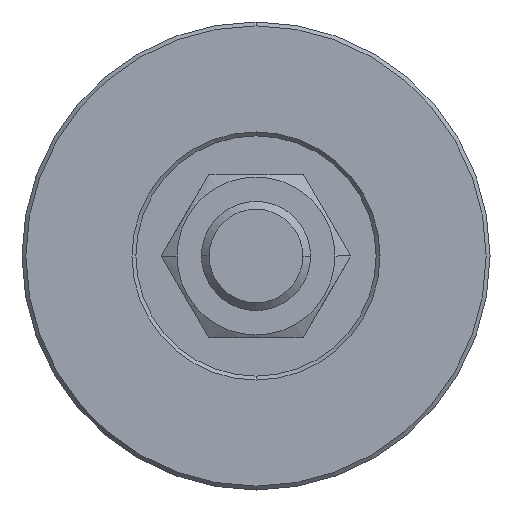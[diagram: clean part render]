
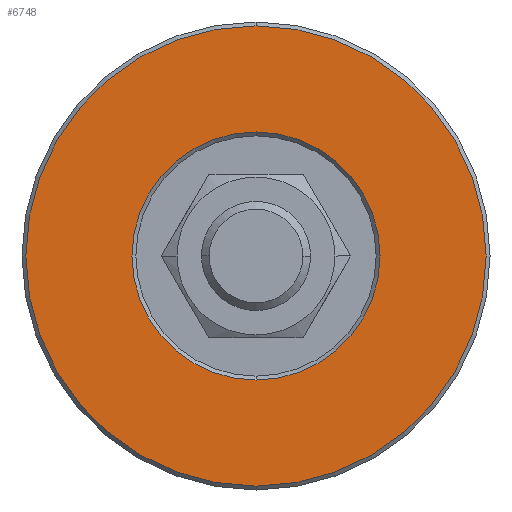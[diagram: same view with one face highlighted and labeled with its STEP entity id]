
A CAD part, front view. The second image highlights one B-rep face of the part: STEP entity #6748.
In plain terms, the highlighted planar face has unit normal (0, -1, 0).
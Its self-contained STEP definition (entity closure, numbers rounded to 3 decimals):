
#227 = DIRECTION ( 'NONE',  ( 0., 0., -1. ) ) ;
#250 = DIRECTION ( 'NONE',  ( 0., -1., 0. ) ) ;
#503 = AXIS2_PLACEMENT_3D ( 'NONE', #2433, #4300, #6660 ) ;
#573 = CARTESIAN_POINT ( 'NONE',  ( 0., 0., -29.5 ) ) ;
#857 = DIRECTION ( 'NONE',  ( 0., 0., -1. ) ) ;
#880 = AXIS2_PLACEMENT_3D ( 'NONE', #4258, #5377, #5967 ) ;
#953 = FACE_OUTER_BOUND ( 'NONE', #1685, .T. ) ;
#956 = EDGE_LOOP ( 'NONE', ( #7467, #3234 ) ) ;
#1086 = AXIS2_PLACEMENT_3D ( 'NONE', #3069, #2438, #7232 ) ;
#1123 = AXIS2_PLACEMENT_3D ( 'NONE', #1483, #250, #857 ) ;
#1427 = CIRCLE ( 'NONE', #5805, 15.9 ) ;
#1483 = CARTESIAN_POINT ( 'NONE',  ( 0., 0., 0. ) ) ;
#1506 = CIRCLE ( 'NONE', #503, 15.9 ) ;
#1685 = EDGE_LOOP ( 'NONE', ( #5636, #3111 ) ) ;
#1987 = FACE_BOUND ( 'NONE', #956, .T. ) ;
#2433 = CARTESIAN_POINT ( 'NONE',  ( 0., 0., 0. ) ) ;
#2438 = DIRECTION ( 'NONE',  ( 0., -1., 0. ) ) ;
#3069 = CARTESIAN_POINT ( 'NONE',  ( 15.4, 0., 0. ) ) ;
#3111 = ORIENTED_EDGE ( 'NONE', *, *, #5622, .T. ) ;
#3234 = ORIENTED_EDGE ( 'NONE', *, *, #7187, .T. ) ;
#3236 = DIRECTION ( 'NONE',  ( 0., 1., 0. ) ) ;
#3348 = VERTEX_POINT ( 'NONE', #6325 ) ;
#3361 = CIRCLE ( 'NONE', #1123, 29.5 ) ;
#3797 = CARTESIAN_POINT ( 'NONE',  ( 0., 0., 0. ) ) ;
#4221 = CARTESIAN_POINT ( 'NONE',  ( 0., 0., -15.9 ) ) ;
#4258 = CARTESIAN_POINT ( 'NONE',  ( 0., 0., 0. ) ) ;
#4300 = DIRECTION ( 'NONE',  ( 0., 1., 0. ) ) ;
#4411 = VERTEX_POINT ( 'NONE', #6368 ) ;
#4688 = EDGE_CURVE ( 'NONE', #4411, #6625, #6342, .T. ) ;
#5377 = DIRECTION ( 'NONE',  ( 0., -1., 0. ) ) ;
#5622 = EDGE_CURVE ( 'NONE', #6625, #4411, #3361, .T. ) ;
#5636 = ORIENTED_EDGE ( 'NONE', *, *, #4688, .T. ) ;
#5805 = AXIS2_PLACEMENT_3D ( 'NONE', #3797, #3236, #227 ) ;
#5967 = DIRECTION ( 'NONE',  ( 0., 0., -1. ) ) ;
#6104 = PLANE ( 'NONE',  #1086 ) ;
#6325 = CARTESIAN_POINT ( 'NONE',  ( 0., 0., 15.9 ) ) ;
#6330 = EDGE_CURVE ( 'NONE', #7331, #3348, #1427, .T. ) ;
#6342 = CIRCLE ( 'NONE', #880, 29.5 ) ;
#6368 = CARTESIAN_POINT ( 'NONE',  ( 0., 0., 29.5 ) ) ;
#6625 = VERTEX_POINT ( 'NONE', #573 ) ;
#6660 = DIRECTION ( 'NONE',  ( 0., 0., -1. ) ) ;
#6748 = ADVANCED_FACE ( 'NONE', ( #953, #1987 ), #6104, .T. ) ;
#7187 = EDGE_CURVE ( 'NONE', #3348, #7331, #1506, .T. ) ;
#7232 = DIRECTION ( 'NONE',  ( 0., 0., -1. ) ) ;
#7331 = VERTEX_POINT ( 'NONE', #4221 ) ;
#7467 = ORIENTED_EDGE ( 'NONE', *, *, #6330, .T. ) ;
